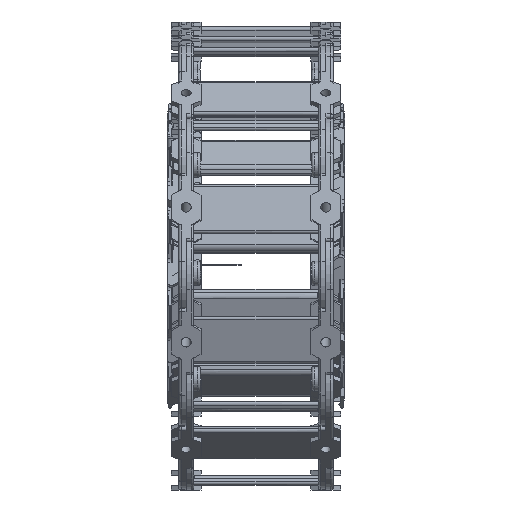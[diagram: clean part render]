
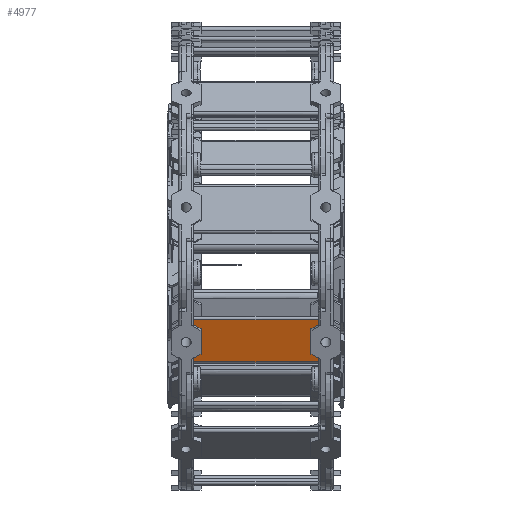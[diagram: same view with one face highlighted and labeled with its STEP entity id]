
A CAD part, front view. The second image highlights one B-rep face of the part: STEP entity #4977.
In plain terms, the highlighted planar face has unit normal (0, -0.939, -0.345) as drawn and (0, 0, -1) by its records, which use the part's own axes.
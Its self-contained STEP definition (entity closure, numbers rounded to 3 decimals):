
#4874=CARTESIAN_POINT('',(-2.6,27.,4.));
#4875=DIRECTION('',(0.0,0.0,-1.0));
#4876=DIRECTION('',(0.0,-1.0,0.0));
#4877=AXIS2_PLACEMENT_3D('',#4874,#4875,#4876);
#4878=PLANE('',#4877);
#4879=CARTESIAN_POINT('',(112.,58.464,4.));
#4880=VERTEX_POINT('',#4879);
#4881=CARTESIAN_POINT('',(106.,55.0,4.));
#4882=VERTEX_POINT('',#4881);
#4883=CARTESIAN_POINT('',(112.,58.464,4.));
#4884=DIRECTION('',(-0.866,-0.5,0.));
#4885=VECTOR('',#4884,6.928);
#4886=LINE('',#4883,#4885);
#4887=EDGE_CURVE('',#4880,#4882,#4886,.T.);
#4888=ORIENTED_EDGE('',*,*,#4887,.T.);
#4889=CARTESIAN_POINT('',(106.,35.,4.));
#4890=VERTEX_POINT('',#4889);
#4891=CARTESIAN_POINT('',(106.,55.0,4.));
#4892=DIRECTION('',(0.0,-1.0,0.0));
#4893=VECTOR('',#4892,20.);
#4894=LINE('',#4891,#4893);
#4895=EDGE_CURVE('',#4882,#4890,#4894,.T.);
#4896=ORIENTED_EDGE('',*,*,#4895,.T.);
#4897=CARTESIAN_POINT('',(112.,31.536,4.));
#4898=VERTEX_POINT('',#4897);
#4899=CARTESIAN_POINT('',(106.,35.,4.));
#4900=DIRECTION('',(0.866,-0.5,0.0));
#4901=VECTOR('',#4900,6.928);
#4902=LINE('',#4899,#4901);
#4903=EDGE_CURVE('',#4890,#4898,#4902,.T.);
#4904=ORIENTED_EDGE('',*,*,#4903,.T.);
#4905=CARTESIAN_POINT('',(112.,27.,4.));
#4906=VERTEX_POINT('',#4905);
#4907=CARTESIAN_POINT('',(112.,27.,4.));
#4908=DIRECTION('',(0.0,1.0,0.0));
#4909=VECTOR('',#4908,4.536);
#4910=LINE('',#4907,#4909);
#4911=EDGE_CURVE('',#4906,#4898,#4910,.T.);
#4912=ORIENTED_EDGE('',*,*,#4911,.F.);
#4913=CARTESIAN_POINT('',(12.,27.,4.));
#4914=VERTEX_POINT('',#4913);
#4915=CARTESIAN_POINT('',(112.,27.,4.));
#4916=DIRECTION('',(-1.0,0.0,0.0));
#4917=VECTOR('',#4916,100.);
#4918=LINE('',#4915,#4917);
#4919=EDGE_CURVE('',#4906,#4914,#4918,.T.);
#4920=ORIENTED_EDGE('',*,*,#4919,.T.);
#4921=CARTESIAN_POINT('',(12.,31.536,4.));
#4922=VERTEX_POINT('',#4921);
#4923=CARTESIAN_POINT('',(12.,31.536,4.));
#4924=DIRECTION('',(0.0,-1.0,0.0));
#4925=VECTOR('',#4924,4.536);
#4926=LINE('',#4923,#4925);
#4927=EDGE_CURVE('',#4922,#4914,#4926,.T.);
#4928=ORIENTED_EDGE('',*,*,#4927,.F.);
#4929=CARTESIAN_POINT('',(18.,35.0,4.));
#4930=VERTEX_POINT('',#4929);
#4931=CARTESIAN_POINT('',(12.,31.536,4.));
#4932=DIRECTION('',(0.866,0.5,0.));
#4933=VECTOR('',#4932,6.928);
#4934=LINE('',#4931,#4933);
#4935=EDGE_CURVE('',#4922,#4930,#4934,.T.);
#4936=ORIENTED_EDGE('',*,*,#4935,.T.);
#4937=CARTESIAN_POINT('',(18.,55.,4.));
#4938=VERTEX_POINT('',#4937);
#4939=CARTESIAN_POINT('',(18.,35.0,4.));
#4940=DIRECTION('',(0.0,1.0,0.0));
#4941=VECTOR('',#4940,20.);
#4942=LINE('',#4939,#4941);
#4943=EDGE_CURVE('',#4930,#4938,#4942,.T.);
#4944=ORIENTED_EDGE('',*,*,#4943,.T.);
#4945=CARTESIAN_POINT('',(12.,58.464,4.));
#4946=VERTEX_POINT('',#4945);
#4947=CARTESIAN_POINT('',(18.,55.,4.));
#4948=DIRECTION('',(-0.866,0.5,0.0));
#4949=VECTOR('',#4948,6.928);
#4950=LINE('',#4947,#4949);
#4951=EDGE_CURVE('',#4938,#4946,#4950,.T.);
#4952=ORIENTED_EDGE('',*,*,#4951,.T.);
#4953=CARTESIAN_POINT('',(12.,63.,4.));
#4954=VERTEX_POINT('',#4953);
#4955=CARTESIAN_POINT('',(12.,63.,4.));
#4956=DIRECTION('',(0.0,-1.0,0.0));
#4957=VECTOR('',#4956,4.536);
#4958=LINE('',#4955,#4957);
#4959=EDGE_CURVE('',#4954,#4946,#4958,.T.);
#4960=ORIENTED_EDGE('',*,*,#4959,.F.);
#4961=CARTESIAN_POINT('',(112.,63.,4.));
#4962=VERTEX_POINT('',#4961);
#4963=CARTESIAN_POINT('',(112.,63.,4.));
#4964=DIRECTION('',(-1.0,0.0,0.0));
#4965=VECTOR('',#4964,100.);
#4966=LINE('',#4963,#4965);
#4967=EDGE_CURVE('',#4962,#4954,#4966,.T.);
#4968=ORIENTED_EDGE('',*,*,#4967,.F.);
#4969=CARTESIAN_POINT('',(112.,58.464,4.));
#4970=DIRECTION('',(0.0,1.0,0.0));
#4971=VECTOR('',#4970,4.536);
#4972=LINE('',#4969,#4971);
#4973=EDGE_CURVE('',#4880,#4962,#4972,.T.);
#4974=ORIENTED_EDGE('',*,*,#4973,.F.);
#4975=EDGE_LOOP('',(#4888,#4896,#4904,#4912,#4920,#4928,#4936,#4944,#4952,#4960,#4968,#4974));
#4976=FACE_OUTER_BOUND('',#4975,.T.);
#4977=ADVANCED_FACE('',(#4976),#4878,.T.);
